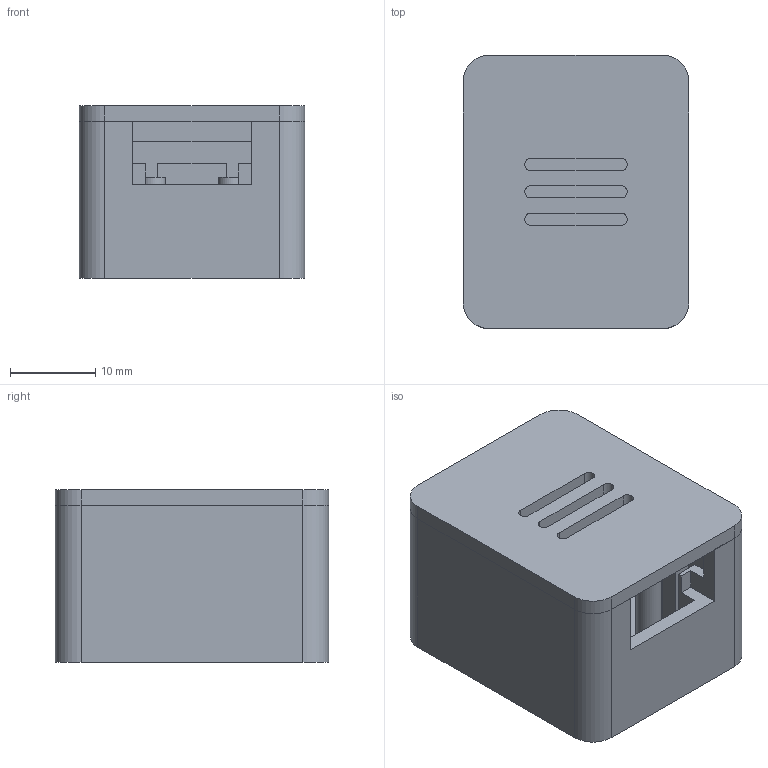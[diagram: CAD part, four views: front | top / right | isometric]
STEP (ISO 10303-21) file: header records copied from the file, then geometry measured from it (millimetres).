
FILE_DESCRIPTION(('Open CASCADE Model'),'2;1');
FILE_NAME('Open CASCADE Shape Model','2026-10-07T23:38:31',('Author'),( 'Open CASCADE'),'Open CASCADE STEP processor 7.9','Open CASCADE 7.9' ,'Unknown');
FILE_SCHEMA(('AUTOMOTIVE_DESIGN { 1 0 10303 214 1 1 1 1 }'));
Length unit declared in the file: millimetre
Products named in the file (3): esp32_c3_supermini_enclosure; base; lid
Assembly tree (2 placements, depth 2):
  esp32_c3_supermini_enclosure
    base
    lid
Bounding box: 26.4 x 32 x 20.2 mm (x, y, z)
Volume: 7051.4 mm3; surface area: 8301 mm2
Topology: 2 solids, 2 shells, 113 faces, 312 edges, 208 vertices
Faces by surface type: plane 79, cylinder 34
Full cylindrical faces by diameter (mm): 3 x4
Entity records: 7706 total; most frequent: CARTESIAN_POINT 1602, DIRECTION 1074, LINE 674, VECTOR 674, ORIENTED_EDGE 624, PCURVE 624, DEFINITIONAL_REPRESENTATION 624, EDGE_CURVE 312
